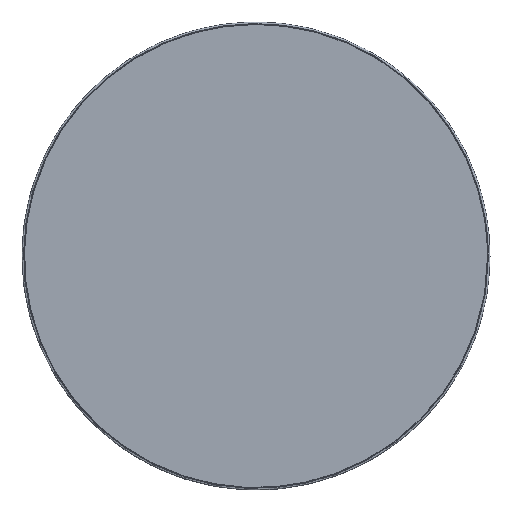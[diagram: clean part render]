
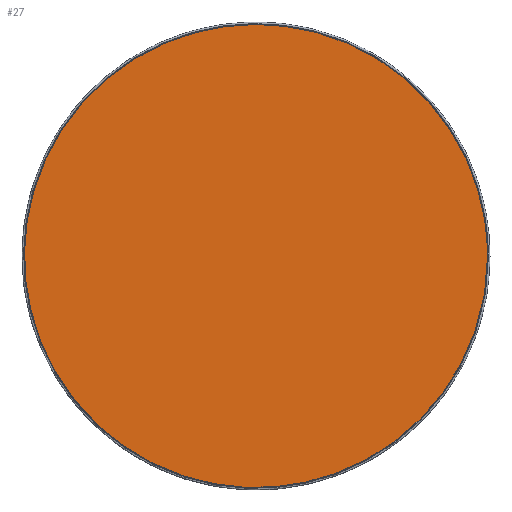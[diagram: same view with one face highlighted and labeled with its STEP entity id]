
A CAD part, top view. The second image highlights one B-rep face of the part: STEP entity #27.
In plain terms, the highlighted planar face has unit normal (0, 0, 1).
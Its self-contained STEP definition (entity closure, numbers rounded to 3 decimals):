
#27=ADVANCED_FACE('',(#36),#121,.T.);
#36=FACE_OUTER_BOUND('',#45,.T.);
#45=EDGE_LOOP('',(#56));
#56=ORIENTED_EDGE('',*,*,#84,.F.);
#84=EDGE_CURVE('',#109,#109,#97,.T.);
#97=(
BOUNDED_CURVE()
B_SPLINE_CURVE(2,(#317,#318,#319,#320,#321,#322,#323,#324,#325),
 .UNSPECIFIED.,.T.,.F.)
B_SPLINE_CURVE_WITH_KNOTS((3,2,2,2,3),(0.,466.212,932.424,
1398.636,1864.849),.UNSPECIFIED.)
CURVE()
GEOMETRIC_REPRESENTATION_ITEM()
RATIONAL_B_SPLINE_CURVE((1.,0.707,1.,0.707,1.,0.707,
1.,0.707,1.))
REPRESENTATION_ITEM('')
);
#109=VERTEX_POINT('',#290);
#121=PLANE('',#145);
#145=AXIS2_PLACEMENT_3D('',#159,#152,$);
#152=DIRECTION('',(0.,0.,1.));
#159=CARTESIAN_POINT('',(-371.25,371.25,28.));
#290=CARTESIAN_POINT('',(296.8,0.,28.));
#317=CARTESIAN_POINT('',(296.8,0.,28.));
#318=CARTESIAN_POINT('',(296.8,-296.8,28.));
#319=CARTESIAN_POINT('',(0.,-296.8,28.));
#320=CARTESIAN_POINT('',(-296.8,-296.8,28.));
#321=CARTESIAN_POINT('',(-296.8,0.,28.));
#322=CARTESIAN_POINT('',(-296.8,296.8,28.));
#323=CARTESIAN_POINT('',(0.,296.8,28.));
#324=CARTESIAN_POINT('',(296.8,296.8,28.));
#325=CARTESIAN_POINT('',(296.8,0.,28.));
